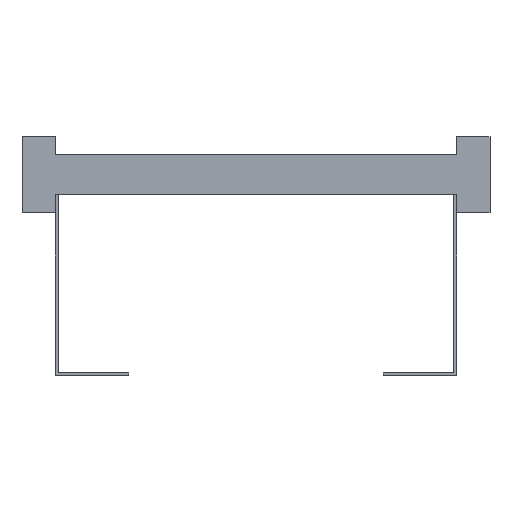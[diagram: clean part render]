
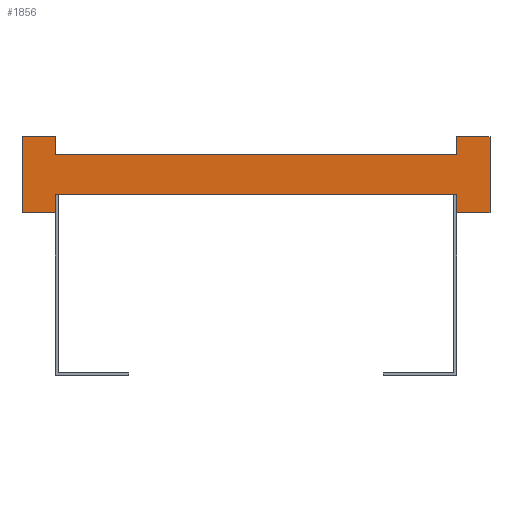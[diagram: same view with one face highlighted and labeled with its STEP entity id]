
A CAD part, front view. The second image highlights one B-rep face of the part: STEP entity #1856.
In plain terms, the highlighted planar face has unit normal (0, -1, 0).
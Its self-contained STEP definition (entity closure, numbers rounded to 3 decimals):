
#1=DIRECTION('',(0.,0.,1.));
#2=VECTOR('',#1,13.5);
#3=CARTESIAN_POINT('',(150.,0.,-28.5));
#4=LINE('',#3,#2);
#5=DIRECTION('',(0.,0.,-1.));
#6=VECTOR('',#5,13.5);
#7=CARTESIAN_POINT('',(-150.,0.,-15.));
#8=LINE('',#7,#6);
#9=DIRECTION('',(-1.,0.,0.));
#10=VECTOR('',#9,25.);
#11=CARTESIAN_POINT('',(-150.,0.,-28.5));
#12=LINE('',#11,#10);
#13=DIRECTION('',(0.,0.,1.));
#14=VECTOR('',#13,57.);
#15=CARTESIAN_POINT('',(-175.,0.,-28.5));
#16=LINE('',#15,#14);
#17=DIRECTION('',(1.,0.,0.));
#18=VECTOR('',#17,25.);
#19=CARTESIAN_POINT('',(-175.,0.,28.5));
#20=LINE('',#19,#18);
#21=DIRECTION('',(0.,0.,-1.));
#22=VECTOR('',#21,13.5);
#23=CARTESIAN_POINT('',(-150.,0.,28.5));
#24=LINE('',#23,#22);
#25=DIRECTION('',(0.,0.,1.));
#26=VECTOR('',#25,13.5);
#27=CARTESIAN_POINT('',(150.,0.,15.));
#28=LINE('',#27,#26);
#29=DIRECTION('',(1.,0.,0.));
#30=VECTOR('',#29,25.);
#31=CARTESIAN_POINT('',(150.,0.,28.5));
#32=LINE('',#31,#30);
#33=DIRECTION('',(0.,0.,-1.));
#34=VECTOR('',#33,57.);
#35=CARTESIAN_POINT('',(175.,0.,28.5));
#36=LINE('',#35,#34);
#37=DIRECTION('',(-1.,0.,0.));
#38=VECTOR('',#37,25.);
#39=CARTESIAN_POINT('',(175.,0.,-28.5));
#40=LINE('',#39,#38);
#1361=DIRECTION('',(1.,0.,0.));
#1362=VECTOR('',#1361,300.);
#1363=CARTESIAN_POINT('',(-150.,0.,-15.));
#1364=LINE('',#1363,#1362);
#1373=DIRECTION('',(1.,0.,0.));
#1374=VECTOR('',#1373,300.);
#1375=CARTESIAN_POINT('',(-150.,0.,15.));
#1376=LINE('',#1375,#1374);
#1377=CARTESIAN_POINT('',(-175.,0.,28.5));
#1378=CARTESIAN_POINT('',(-150.,0.,28.5));
#1379=VERTEX_POINT('',#1377);
#1380=VERTEX_POINT('',#1378);
#1381=CARTESIAN_POINT('',(-150.,0.,-28.5));
#1382=CARTESIAN_POINT('',(-175.,0.,-28.5));
#1383=VERTEX_POINT('',#1381);
#1384=VERTEX_POINT('',#1382);
#1385=CARTESIAN_POINT('',(175.,0.,28.5));
#1386=CARTESIAN_POINT('',(175.,0.,-28.5));
#1387=VERTEX_POINT('',#1385);
#1388=VERTEX_POINT('',#1386);
#1389=CARTESIAN_POINT('',(150.,0.,-28.5));
#1390=VERTEX_POINT('',#1389);
#1391=CARTESIAN_POINT('',(150.,0.,28.5));
#1392=VERTEX_POINT('',#1391);
#1409=CARTESIAN_POINT('',(-150.,0.,-15.));
#1411=VERTEX_POINT('',#1409);
#1413=CARTESIAN_POINT('',(-150.,0.,15.));
#1415=VERTEX_POINT('',#1413);
#1417=CARTESIAN_POINT('',(150.,0.,-15.));
#1419=VERTEX_POINT('',#1417);
#1421=CARTESIAN_POINT('',(150.,0.,15.));
#1423=VERTEX_POINT('',#1421);
#1825=CARTESIAN_POINT('',(0.,0.,0.));
#1826=DIRECTION('',(0.,1.,0.));
#1827=DIRECTION('',(1.,0.,0.));
#1828=AXIS2_PLACEMENT_3D('',#1825,#1826,#1827);
#1829=PLANE('',#1828);
#1831=ORIENTED_EDGE('',*,*,#1830,.T.);
#1833=ORIENTED_EDGE('',*,*,#1832,.F.);
#1835=ORIENTED_EDGE('',*,*,#1834,.T.);
#1837=ORIENTED_EDGE('',*,*,#1836,.T.);
#1839=ORIENTED_EDGE('',*,*,#1838,.T.);
#1841=ORIENTED_EDGE('',*,*,#1840,.T.);
#1843=ORIENTED_EDGE('',*,*,#1842,.T.);
#1845=ORIENTED_EDGE('',*,*,#1844,.T.);
#1847=ORIENTED_EDGE('',*,*,#1846,.T.);
#1849=ORIENTED_EDGE('',*,*,#1848,.T.);
#1851=ORIENTED_EDGE('',*,*,#1850,.T.);
#1853=ORIENTED_EDGE('',*,*,#1852,.T.);
#1854=EDGE_LOOP('',(#1831,#1833,#1835,#1837,#1839,#1841,#1843,#1845,#1847,#1849,
#1851,#1853));
#1855=FACE_OUTER_BOUND('',#1854,.F.);
#1856=ADVANCED_FACE('',(#1855),#1829,.F.);
#1830=EDGE_CURVE('',#1390,#1419,#4,.T.);
#1832=EDGE_CURVE('',#1411,#1419,#1364,.T.);
#1834=EDGE_CURVE('',#1411,#1383,#8,.T.);
#1836=EDGE_CURVE('',#1383,#1384,#12,.T.);
#1838=EDGE_CURVE('',#1384,#1379,#16,.T.);
#1840=EDGE_CURVE('',#1379,#1380,#20,.T.);
#1842=EDGE_CURVE('',#1380,#1415,#24,.T.);
#1844=EDGE_CURVE('',#1415,#1423,#1376,.T.);
#1846=EDGE_CURVE('',#1423,#1392,#28,.T.);
#1848=EDGE_CURVE('',#1392,#1387,#32,.T.);
#1850=EDGE_CURVE('',#1387,#1388,#36,.T.);
#1852=EDGE_CURVE('',#1388,#1390,#40,.T.);
